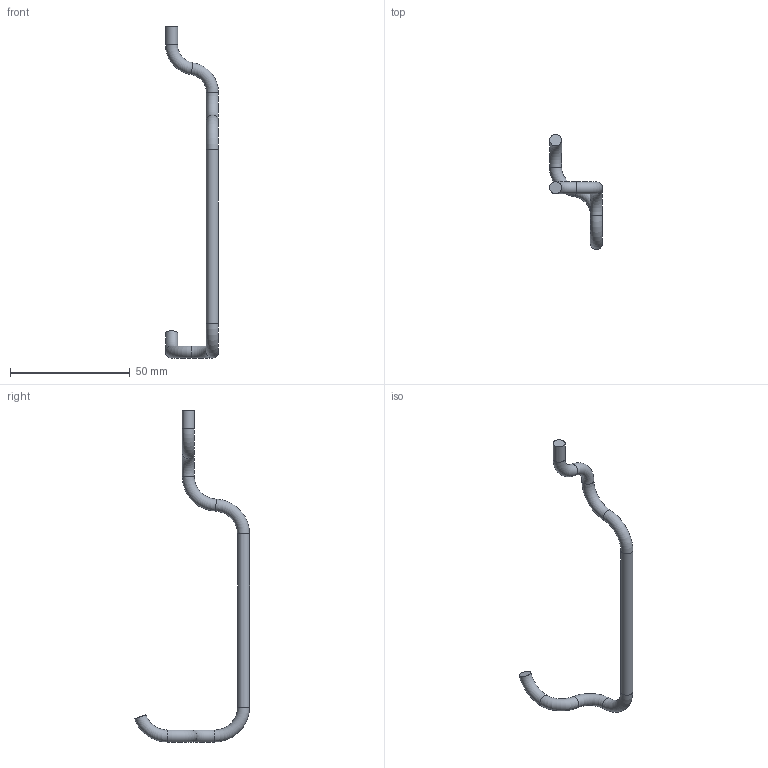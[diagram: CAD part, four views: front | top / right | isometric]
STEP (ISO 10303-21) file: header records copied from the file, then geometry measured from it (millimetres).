
FILE_DESCRIPTION(('FreeCAD Model'),'2;1');
FILE_NAME('Open CASCADE Shape Model','2026-09-19T18:07:28',('FreeCAD'),( 'FreeCAD'),'Open CASCADE STEP processor 7.8','FreeCAD','Unknown');
FILE_SCHEMA(('AUTOMOTIVE_DESIGN { 1 0 10303 214 1 1 1 1 }'));
Length unit declared in the file: millimetre
Products named in the file (1): Open CASCADE STEP translator 7.8 13
Bounding box: 22 x 47.94 x 138.4 mm (x, y, z)
Volume: 4069.9 mm3; surface area: 3295.2 mm2
Topology: 1 solids, 1 shells, 12 faces, 21 edges, 11 vertices
Faces by surface type: torus 8, cylinder 2, plane 2
Full cylindrical faces by diameter (mm): 5 x2
Entity records: 302 total; most frequent: DIRECTION 66, CARTESIAN_POINT 45, ORIENTED_EDGE 42, AXIS2_PLACEMENT_3D 32, EDGE_CURVE 21, CIRCLE 19, ADVANCED_FACE 12, FACE_BOUND 12
